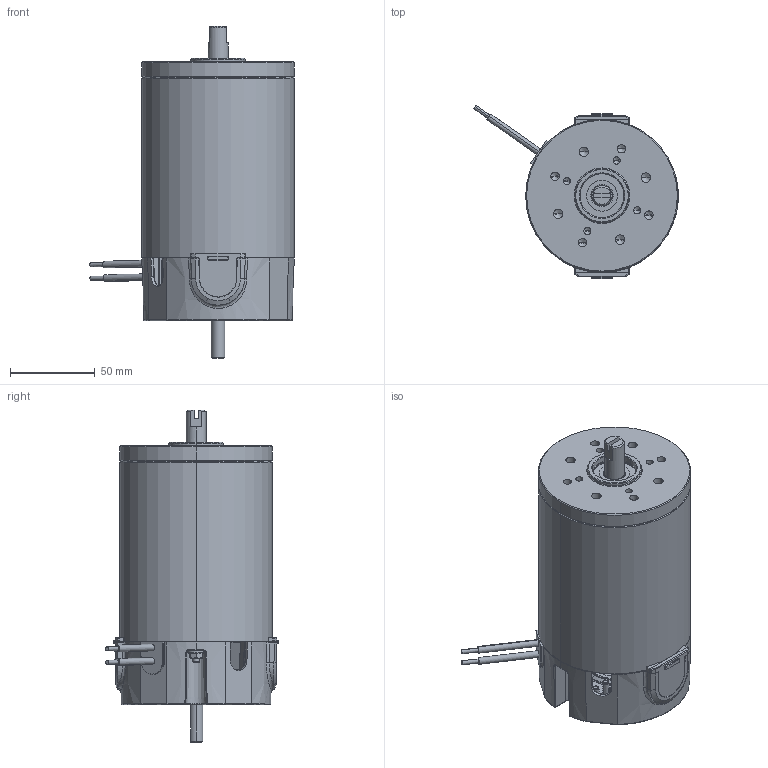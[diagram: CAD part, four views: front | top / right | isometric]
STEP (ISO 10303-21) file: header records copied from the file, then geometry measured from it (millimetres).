
FILE_DESCRIPTION (( 'STEP AP214' ), '1' );
FILE_NAME ('BRx90-50 Motor Assy.STEP', '2023-11-10T11:16:08', ( '' ), ( '' ), 'SwSTEP 2.0', 'SolidWorks 2023', '' );
FILE_SCHEMA (( 'AUTOMOTIVE_DESIGN' ));
Length unit declared in the file: millimetre
Products named in the file (1): BRx90-50 Motor Assy
Bounding box: 120.71 x 102.23 x 195.95 mm (x, y, z)
Volume: 300041.2 mm3; surface area: 142896.7 mm2
Topology: 19 solids, 19 shells, 1472 faces, 3452 edges, 1997 vertices
Faces by surface type: cylinder 429, plane 316, torus 239, cone 226, bspline 182, sphere 80
Entity records: 63393 total; most frequent: CARTESIAN_POINT 14690, DIRECTION 7032, ORIENTED_EDGE 6676, EDGE_CURVE 3338, AXIS2_PLACEMENT_3D 2970, VERTEX_POINT 1997, CIRCLE 1679, EDGE_LOOP 1595
